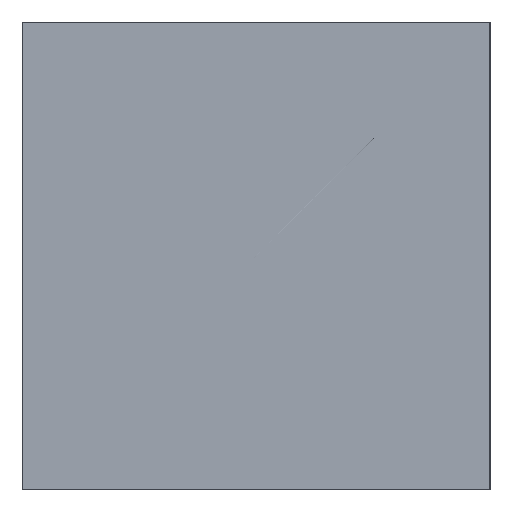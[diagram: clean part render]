
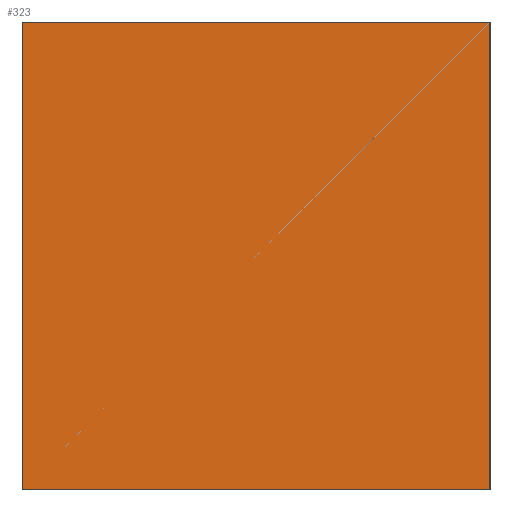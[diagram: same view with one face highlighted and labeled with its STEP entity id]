
A CAD part, front view. The second image highlights one B-rep face of the part: STEP entity #323.
In plain terms, the highlighted planar face has unit normal (0, -1, 0).
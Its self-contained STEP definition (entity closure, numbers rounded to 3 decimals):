
#8 = ORIENTED_EDGE ( 'NONE', *, *, #69, .F. ) ;
#24 = VERTEX_POINT ( 'NONE', #383 ) ;
#57 = DIRECTION ( 'NONE',  ( 0., 1., 0. ) ) ;
#69 = EDGE_CURVE ( 'NONE', #330, #266, #123, .T. ) ;
#72 = CARTESIAN_POINT ( 'NONE',  ( 2., -24., 0. ) ) ;
#75 = CARTESIAN_POINT ( 'NONE',  ( 2., -24., 4. ) ) ;
#84 = FACE_OUTER_BOUND ( 'NONE', #272, .T. ) ;
#85 = DIRECTION ( 'NONE',  ( 1., 0., 0. ) ) ;
#88 = PLANE ( 'NONE',  #112 ) ;
#102 = EDGE_CURVE ( 'NONE', #24, #303, #357, .T. ) ;
#112 = AXIS2_PLACEMENT_3D ( 'NONE', #264, #57, #228 ) ;
#116 = ORIENTED_EDGE ( 'NONE', *, *, #102, .T. ) ;
#123 = LINE ( 'NONE', #318, #150 ) ;
#130 = VECTOR ( 'NONE', #85, 1000. ) ;
#137 = CARTESIAN_POINT ( 'NONE',  ( -2., -24., 4. ) ) ;
#150 = VECTOR ( 'NONE', #160, 1000. ) ;
#160 = DIRECTION ( 'NONE',  ( 1., 0., 0. ) ) ;
#164 = CARTESIAN_POINT ( 'NONE',  ( -2., -24., 0. ) ) ;
#203 = CARTESIAN_POINT ( 'NONE',  ( -2., -24., 4. ) ) ;
#228 = DIRECTION ( 'NONE',  ( 0., 0., 1. ) ) ;
#240 = ORIENTED_EDGE ( 'NONE', *, *, #259, .F. ) ;
#254 = LINE ( 'NONE', #137, #353 ) ;
#259 = EDGE_CURVE ( 'NONE', #266, #303, #317, .T. ) ;
#264 = CARTESIAN_POINT ( 'NONE',  ( -2., -24., 4. ) ) ;
#266 = VERTEX_POINT ( 'NONE', #75 ) ;
#272 = EDGE_LOOP ( 'NONE', ( #116, #240, #8, #315 ) ) ;
#291 = DIRECTION ( 'NONE',  ( 0., 0., -1. ) ) ;
#303 = VERTEX_POINT ( 'NONE', #72 ) ;
#305 = EDGE_CURVE ( 'NONE', #330, #24, #254, .T. ) ;
#314 = CARTESIAN_POINT ( 'NONE',  ( 2., -24., 4. ) ) ;
#315 = ORIENTED_EDGE ( 'NONE', *, *, #305, .T. ) ;
#317 = LINE ( 'NONE', #314, #372 ) ;
#318 = CARTESIAN_POINT ( 'NONE',  ( -2., -24., 4. ) ) ;
#323 = ADVANCED_FACE ( 'NONE', ( #84 ), #88, .F. ) ;
#330 = VERTEX_POINT ( 'NONE', #203 ) ;
#347 = DIRECTION ( 'NONE',  ( 0., 0., -1. ) ) ;
#353 = VECTOR ( 'NONE', #291, 1000. ) ;
#357 = LINE ( 'NONE', #164, #130 ) ;
#372 = VECTOR ( 'NONE', #347, 1000. ) ;
#383 = CARTESIAN_POINT ( 'NONE',  ( -2., -24., 0. ) ) ;
